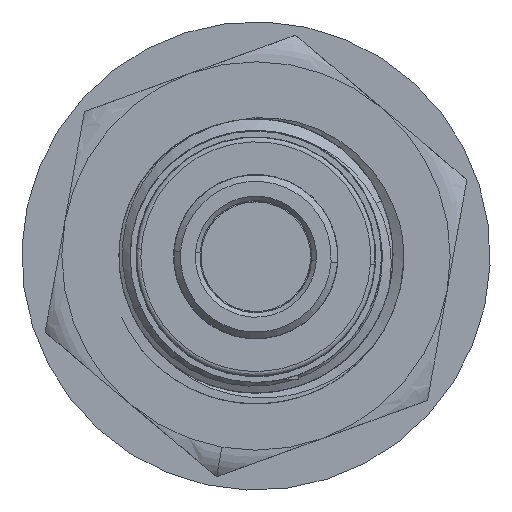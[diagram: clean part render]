
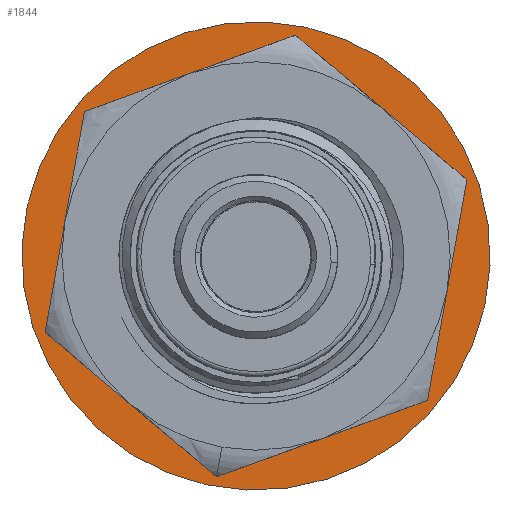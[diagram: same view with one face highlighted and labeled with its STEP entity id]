
A CAD part, left-side view. The second image highlights one B-rep face of the part: STEP entity #1844.
In plain terms, the highlighted planar face has unit normal (-1, 0, 0).
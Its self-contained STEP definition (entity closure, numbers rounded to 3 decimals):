
#77 = EDGE_LOOP ( 'NONE', ( #18525, #18621 ) ) ;
#777 = DIRECTION ( 'NONE',  ( 1., 0., 0. ) ) ;
#1094 = VERTEX_POINT ( 'NONE', #18426 ) ;
#1362 = EDGE_CURVE ( 'NONE', #4480, #12740, #14000, .T. ) ;
#1844 = ADVANCED_FACE ( 'NONE', ( #17612, #11621 ), #4041, .T. ) ;
#1862 = ORIENTED_EDGE ( 'NONE', *, *, #16177, .T. ) ;
#2224 = DIRECTION ( 'NONE',  ( 1., 0., 0. ) ) ;
#2342 = AXIS2_PLACEMENT_3D ( 'NONE', #9936, #777, #7039 ) ;
#2428 = CARTESIAN_POINT ( 'NONE',  ( -72.415, -1.399, 18.918 ) ) ;
#2497 = DIRECTION ( 'NONE',  ( 0., -0.175, 0.984 ) ) ;
#2537 = DIRECTION ( 'NONE',  ( 0., -0.213, 0.977 ) ) ;
#2597 = AXIS2_PLACEMENT_3D ( 'NONE', #2428, #2224, #5017 ) ;
#2754 = DIRECTION ( 'NONE',  ( 1., 0., 0. ) ) ;
#2809 = ORIENTED_EDGE ( 'NONE', *, *, #1362, .T. ) ;
#3015 = ORIENTED_EDGE ( 'NONE', *, *, #3908, .T. ) ;
#3346 = AXIS2_PLACEMENT_3D ( 'NONE', #10068, #13070, #2497 ) ;
#3504 = AXIS2_PLACEMENT_3D ( 'NONE', #7069, #19445, #11861 ) ;
#3844 = EDGE_CURVE ( 'NONE', #4010, #5599, #11475, .T. ) ;
#3908 = EDGE_CURVE ( 'NONE', #1094, #8807, #17523, .T. ) ;
#4010 = VERTEX_POINT ( 'NONE', #7090 ) ;
#4041 = PLANE ( 'NONE',  #6304 ) ;
#4053 = ORIENTED_EDGE ( 'NONE', *, *, #10127, .F. ) ;
#4185 = CARTESIAN_POINT ( 'NONE',  ( -72.415, -1.399, 18.918 ) ) ;
#4480 = VERTEX_POINT ( 'NONE', #6232 ) ;
#5017 = DIRECTION ( 'NONE',  ( 0., -0.175, 0.984 ) ) ;
#5194 = CARTESIAN_POINT ( 'NONE',  ( -72.415, 4.077, 12.417 ) ) ;
#5599 = VERTEX_POINT ( 'NONE', #14891 ) ;
#5901 = CIRCLE ( 'NONE', #3346, 8.5 ) ;
#6232 = CARTESIAN_POINT ( 'NONE',  ( -72.415, 6.97, 20.409 ) ) ;
#6304 = AXIS2_PLACEMENT_3D ( 'NONE', #8306, #16216, #2537 ) ;
#6393 = CIRCLE ( 'NONE', #8621, 8.5 ) ;
#6680 = VERTEX_POINT ( 'NONE', #12335 ) ;
#7039 = DIRECTION ( 'NONE',  ( 0., -0.175, 0.984 ) ) ;
#7069 = CARTESIAN_POINT ( 'NONE',  ( -72.415, -1.399, 18.918 ) ) ;
#7090 = CARTESIAN_POINT ( 'NONE',  ( -72.415, 0.784, 8.903 ) ) ;
#8088 = ORIENTED_EDGE ( 'NONE', *, *, #18934, .T. ) ;
#8171 = DIRECTION ( 'NONE',  ( -1., 0., 0. ) ) ;
#8306 = CARTESIAN_POINT ( 'NONE',  ( -72.415, -1.399, 18.918 ) ) ;
#8621 = AXIS2_PLACEMENT_3D ( 'NONE', #16429, #2754, #19409 ) ;
#8807 = VERTEX_POINT ( 'NONE', #5194 ) ;
#8910 = AXIS2_PLACEMENT_3D ( 'NONE', #4185, #19148, #11466 ) ;
#9268 = AXIS2_PLACEMENT_3D ( 'NONE', #18710, #16927, #12437 ) ;
#9693 = AXIS2_PLACEMENT_3D ( 'NONE', #10643, #12807, #18888 ) ;
#9900 = CIRCLE ( 'NONE', #2597, 8.5 ) ;
#9936 = CARTESIAN_POINT ( 'NONE',  ( -72.415, -1.399, 18.918 ) ) ;
#10068 = CARTESIAN_POINT ( 'NONE',  ( -72.415, -1.399, 18.918 ) ) ;
#10127 = EDGE_CURVE ( 'NONE', #6680, #18244, #14693, .T. ) ;
#10643 = CARTESIAN_POINT ( 'NONE',  ( -72.415, -1.399, 18.918 ) ) ;
#11466 = DIRECTION ( 'NONE',  ( 0., -0.175, 0.984 ) ) ;
#11475 = CIRCLE ( 'NONE', #3504, 10.25 ) ;
#11621 = FACE_OUTER_BOUND ( 'NONE', #77, .T. ) ;
#11809 = CIRCLE ( 'NONE', #9268, 8.5 ) ;
#11861 = DIRECTION ( 'NONE',  ( 0., -0.213, 0.977 ) ) ;
#12052 = VERTEX_POINT ( 'NONE', #16279 ) ;
#12335 = CARTESIAN_POINT ( 'NONE',  ( -72.415, -4.292, 10.926 ) ) ;
#12437 = DIRECTION ( 'NONE',  ( 0., -0.175, 0.984 ) ) ;
#12740 = VERTEX_POINT ( 'NONE', #15434 ) ;
#12807 = DIRECTION ( 'NONE',  ( -1., 0., 0. ) ) ;
#13070 = DIRECTION ( 'NONE',  ( 1., 0., 0. ) ) ;
#13104 = ORIENTED_EDGE ( 'NONE', *, *, #16594, .T. ) ;
#13367 = CARTESIAN_POINT ( 'NONE',  ( -72.415, -9.767, 17.427 ) ) ;
#13730 = ORIENTED_EDGE ( 'NONE', *, *, #18693, .T. ) ;
#13737 = AXIS2_PLACEMENT_3D ( 'NONE', #15694, #8171, #14288 ) ;
#14000 = CIRCLE ( 'NONE', #2342, 8.5 ) ;
#14288 = DIRECTION ( 'NONE',  ( 0., 0.175, -0.984 ) ) ;
#14693 = CIRCLE ( 'NONE', #13737, 8.5 ) ;
#14891 = CARTESIAN_POINT ( 'NONE',  ( -72.415, -3.582, 28.933 ) ) ;
#15434 = CARTESIAN_POINT ( 'NONE',  ( -72.415, 1.494, 26.911 ) ) ;
#15694 = CARTESIAN_POINT ( 'NONE',  ( -72.415, -1.399, 18.918 ) ) ;
#15816 = EDGE_CURVE ( 'NONE', #5599, #4010, #19592, .T. ) ;
#16177 = EDGE_CURVE ( 'NONE', #8807, #4480, #5901, .T. ) ;
#16216 = DIRECTION ( 'NONE',  ( -1., 0., 0. ) ) ;
#16279 = CARTESIAN_POINT ( 'NONE',  ( -72.415, -6.874, 25.42 ) ) ;
#16429 = CARTESIAN_POINT ( 'NONE',  ( -72.415, -1.399, 18.918 ) ) ;
#16594 = EDGE_CURVE ( 'NONE', #12740, #12052, #9900, .T. ) ;
#16927 = DIRECTION ( 'NONE',  ( 1., 0., 0. ) ) ;
#17523 = CIRCLE ( 'NONE', #8910, 8.5 ) ;
#17612 = FACE_BOUND ( 'NONE', #17948, .T. ) ;
#17948 = EDGE_LOOP ( 'NONE', ( #1862, #2809, #13104, #8088, #4053, #13730, #3015 ) ) ;
#18244 = VERTEX_POINT ( 'NONE', #13367 ) ;
#18426 = CARTESIAN_POINT ( 'NONE',  ( -72.415, 0.092, 10.55 ) ) ;
#18525 = ORIENTED_EDGE ( 'NONE', *, *, #3844, .T. ) ;
#18621 = ORIENTED_EDGE ( 'NONE', *, *, #15816, .T. ) ;
#18693 = EDGE_CURVE ( 'NONE', #6680, #1094, #11809, .T. ) ;
#18710 = CARTESIAN_POINT ( 'NONE',  ( -72.415, -1.399, 18.918 ) ) ;
#18888 = DIRECTION ( 'NONE',  ( 0., -0.213, 0.977 ) ) ;
#18934 = EDGE_CURVE ( 'NONE', #12052, #18244, #6393, .T. ) ;
#19148 = DIRECTION ( 'NONE',  ( 1., 0., 0. ) ) ;
#19409 = DIRECTION ( 'NONE',  ( 0., -0.175, 0.984 ) ) ;
#19445 = DIRECTION ( 'NONE',  ( -1., 0., 0. ) ) ;
#19592 = CIRCLE ( 'NONE', #9693, 10.25 ) ;
